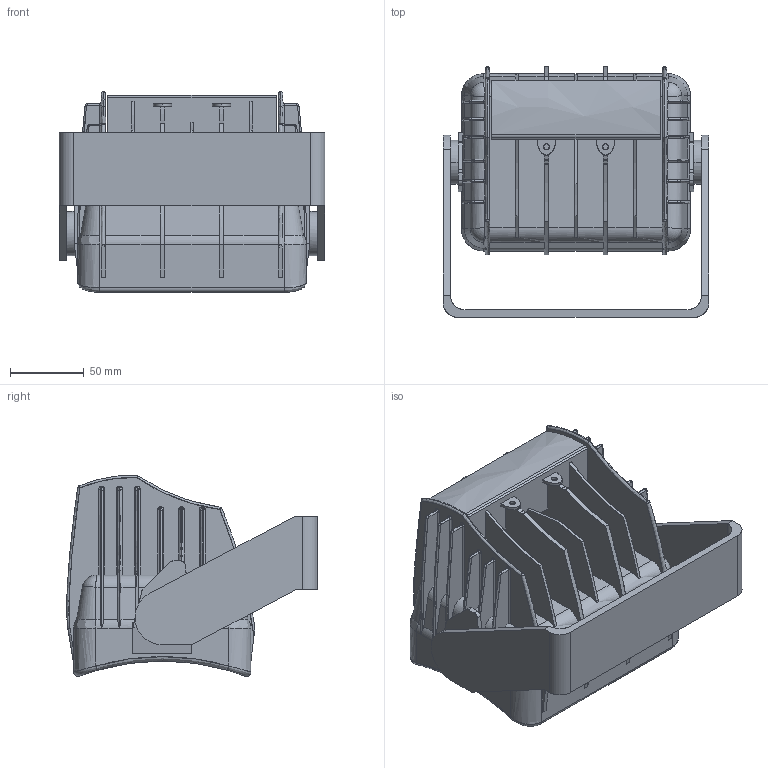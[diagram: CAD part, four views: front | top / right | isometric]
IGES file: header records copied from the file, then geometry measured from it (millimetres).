
Start section: SolidWorks IGES file using analytic representation for surfaces
Global section: file name: D:\Masaüstü\PROJELER\GRABCAD\Projektör\Projector.IGS; native system: SolidWorks 2017; preprocessor: SolidWorks 2017; author: Umut; date: 190110.212351; units: millimetre
Bounding box: 180 x 169.77 x 135.97 mm (x, y, z)
Surface area: 283929.4 mm2 (no closed solid volume)
Topology: 0 solids, 0 shells, 576 faces, 7344 edges, 7340 vertices
Faces by surface type: bspline 365, revolution 211
